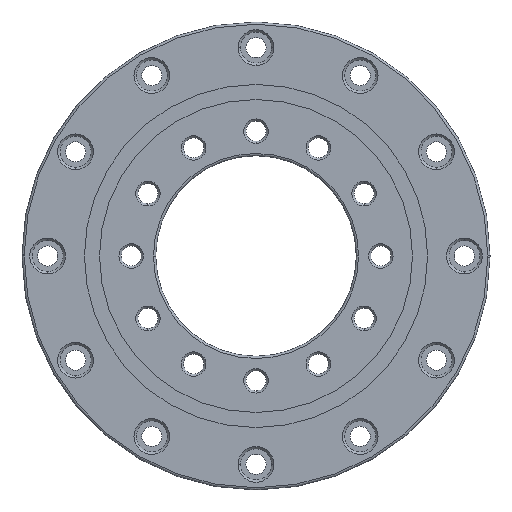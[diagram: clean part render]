
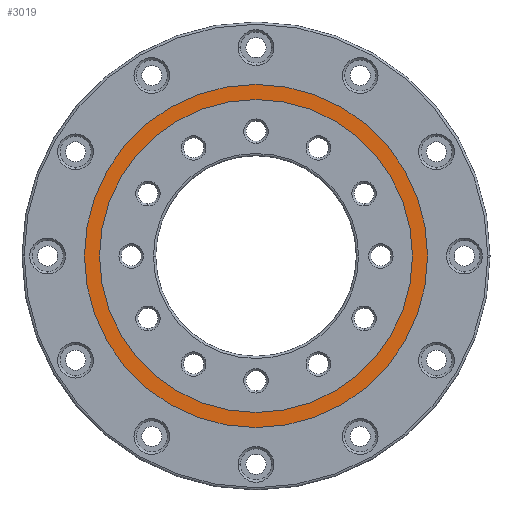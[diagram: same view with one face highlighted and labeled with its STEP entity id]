
A CAD part, front view. The second image highlights one B-rep face of the part: STEP entity #3019.
In plain terms, the highlighted planar face has unit normal (0, -1, 0).
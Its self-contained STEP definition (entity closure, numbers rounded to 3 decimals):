
#3019=ADVANCED_FACE('',(#7708,#7709),#7710,.F.);
#4047=EDGE_CURVE('',#4385,#6495,#8850,.T.);
#4385=VERTEX_POINT('',#9243);
#4843=EDGE_CURVE('',#6495,#4385,#9753,.T.);
#5227=EDGE_CURVE('',#5383,#6097,#10201,.T.);
#5383=VERTEX_POINT('',#10387);
#5401=EDGE_CURVE('',#6097,#5383,#10407,.T.);
#6097=VERTEX_POINT('',#11205);
#6495=VERTEX_POINT('',#11634);
#7708=FACE_OUTER_BOUND('',#13109,.T.);
#7709=FACE_BOUND('',#13110,.T.);
#7710=PLANE('',#13111);
#8850=CIRCLE('',#14594,70.2);
#9243=CARTESIAN_POINT('',(70.2,0.0,0.0));
#9753=CIRCLE('',#15770,70.2);
#10201=CIRCLE('',#16329,77.0);
#10387=CARTESIAN_POINT('',(77.0,0.0,0.0));
#10407=CIRCLE('',#16602,77.0);
#11205=CARTESIAN_POINT('',(-77.0,0.0,0.));
#11634=CARTESIAN_POINT('',(-70.2,0.0,0.0));
#13109=EDGE_LOOP('',(#19771,#19772));
#13110=EDGE_LOOP('',(#19773,#19774));
#13111=AXIS2_PLACEMENT_3D('',#19775,#19776,#19777);
#14594=AXIS2_PLACEMENT_3D('',#21193,#21194,#21195);
#15770=AXIS2_PLACEMENT_3D('',#22420,#22421,#22422);
#16329=AXIS2_PLACEMENT_3D('',#23070,#23071,#23072);
#16602=AXIS2_PLACEMENT_3D('',#23359,#23360,#23361);
#19771=ORIENTED_EDGE('',*,*,#5401,.F.);
#19772=ORIENTED_EDGE('',*,*,#5227,.F.);
#19773=ORIENTED_EDGE('',*,*,#4843,.F.);
#19774=ORIENTED_EDGE('',*,*,#4047,.F.);
#19775=CARTESIAN_POINT('',(0.0,0.0,0.0));
#19776=DIRECTION('',(0.0,1.0,0.0));
#19777=DIRECTION('',(1.0,0.0,-0.0));
#21193=CARTESIAN_POINT('',(0.0,0.0,0.0));
#21194=DIRECTION('',(0.0,-1.0,0.0));
#21195=DIRECTION('',(1.0,0.0,0.0));
#22420=CARTESIAN_POINT('',(0.0,0.0,0.0));
#22421=DIRECTION('',(0.0,-1.0,0.0));
#22422=DIRECTION('',(-1.0,0.0,0.0));
#23070=CARTESIAN_POINT('',(0.0,0.0,0.0));
#23071=DIRECTION('',(-0.0,1.0,0.0));
#23072=DIRECTION('',(1.0,0.0,0.0));
#23359=CARTESIAN_POINT('',(0.0,0.0,0.0));
#23360=DIRECTION('',(0.0,1.0,0.0));
#23361=DIRECTION('',(-1.0,0.0,0.0));
